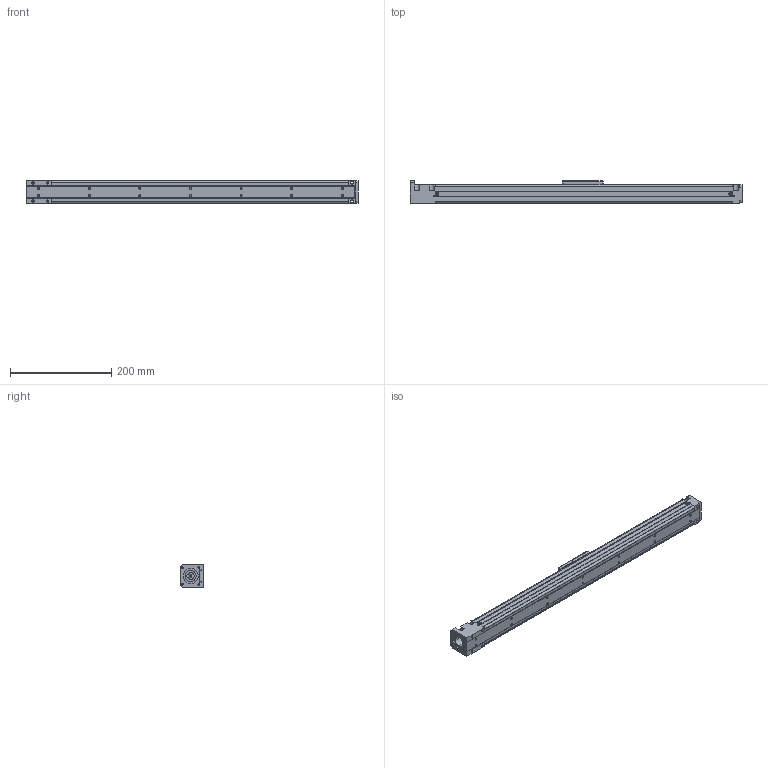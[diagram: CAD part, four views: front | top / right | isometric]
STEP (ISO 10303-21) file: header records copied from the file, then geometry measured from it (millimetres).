
FILE_DESCRIPTION (( 'STEP AP203' ), '1' );
FILE_NAME ('RL-45T-500.STEP', '2010-06-14T17:29:22', ( 'render' ), ( '' ), 'SwSTEP 2.0', 'SolidWorks 2009', '' );
FILE_SCHEMA (( 'CONFIG_CONTROL_DESIGN' ));
Length unit declared in the file: millimetre
Products named in the file (1): RL-45T-500
Bounding box: 656 x 45 x 45 mm (x, y, z)
Volume: 312931.2 mm3; surface area: 246467.3 mm2
Topology: 2 solids, 2 shells, 685 faces, 1785 edges, 1106 vertices
Faces by surface type: plane 410, cylinder 149, cone 118, bspline 8
Entity records: 20878 total; most frequent: CARTESIAN_POINT 3767, ORIENTED_EDGE 3530, DIRECTION 3505, EDGE_CURVE 1765, LINE 1321, VECTOR 1321, VERTEX_POINT 1106, AXIS2_PLACEMENT_3D 1092
